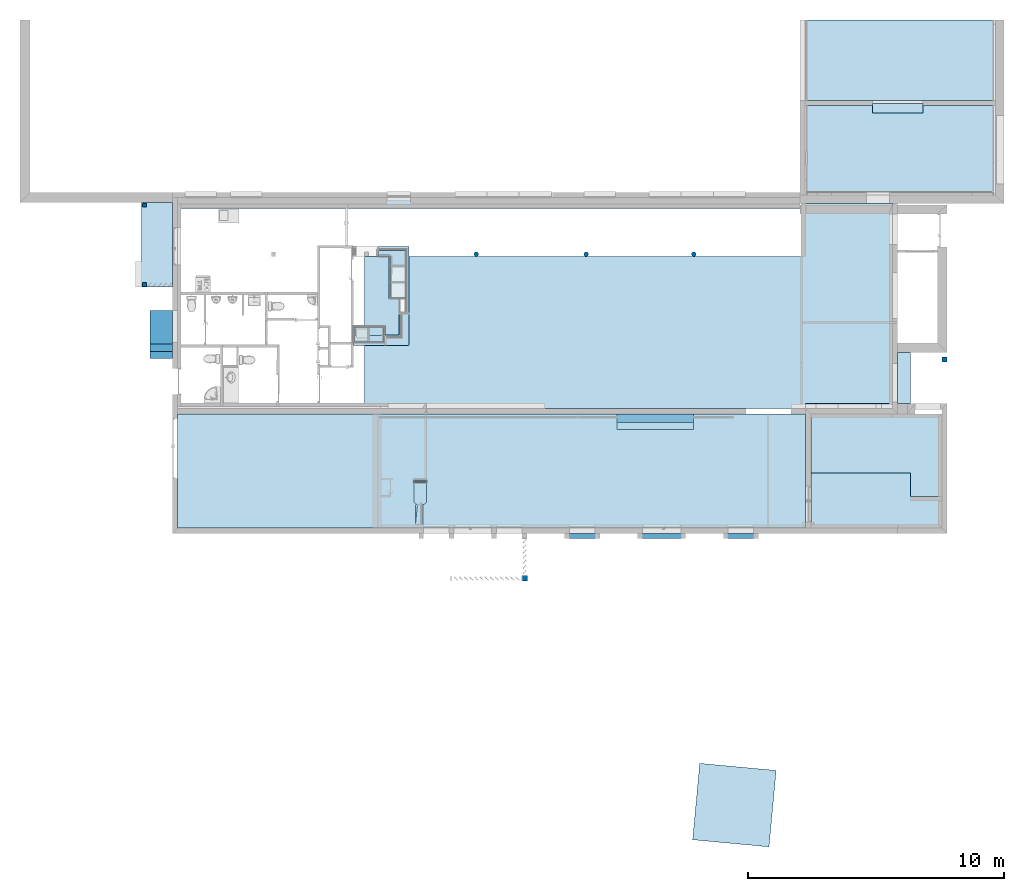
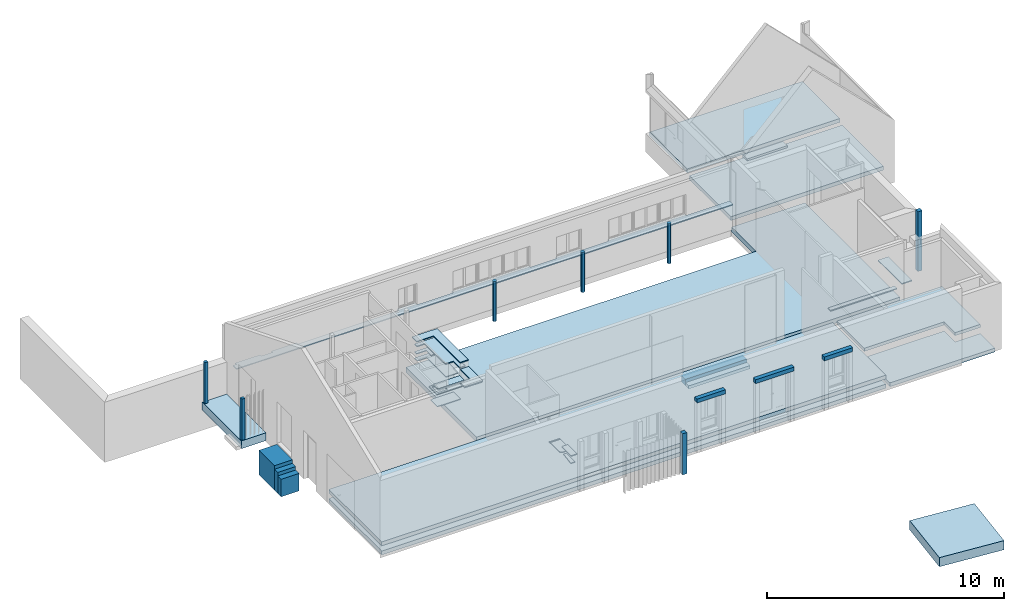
# One storey, part 1 of 34: 33 slabs, 7 columns.
"""IFC2X3 building model written with IfcOpenShell, lengths in metres."""

from ifc_helpers import new_model, entity, si_unit, converted_unit, derived_unit, money_unit, point, direction, frame, frame_2d, origin_with_axes, origin_2d_with_axis, place, context, subcontext, project, spatial, polyline, circle_curve, parameter, trimmed, segment, composite_curve, rectangle, circle, outline, extrude, material, layer, layer_set, layer_usage, type_object, element, save


model = new_model("IFC2X3")

# Units and contexts
model_context = context("Model", 3, precision=1e-05, world=origin_with_axes(), true_north=direction((0.0, 1.0)))
body_context = subcontext(model_context, "Body", "Model", "MODEL_VIEW")
ifc_project = project(units=[si_unit("LENGTHUNIT", "METRE"), si_unit("AREAUNIT", "SQUARE_METRE"), si_unit("VOLUMEUNIT", "CUBIC_METRE"), converted_unit("PLANEANGLEUNIT", "DEGREE", entity("IfcPlaneAngleMeasure", 0.0174532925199), si_unit("PLANEANGLEUNIT", "RADIAN"), dimensions=[0, 0, 0, 0, 0, 0, 0]), money_unit("CHF"), converted_unit("TIMEUNIT", "Year", entity("IfcTimeMeasure", 31556926.0), si_unit("TIMEUNIT", "SECOND"), dimensions=[0, 0, 1, 0, 0, 0, 0]), si_unit("MASSUNIT", "GRAM", prefix="KILO"), si_unit("THERMODYNAMICTEMPERATUREUNIT", "DEGREE_CELSIUS"), si_unit("LUMINOUSINTENSITYUNIT", "LUMEN"), si_unit("ENERGYUNIT", "JOULE", prefix="MEGA"), derived_unit("THERMALCONDUCTANCEUNIT", [(si_unit("POWERUNIT", "WATT"), 1), (si_unit("LENGTHUNIT", "METRE"), -1), (si_unit("THERMODYNAMICTEMPERATUREUNIT", "KELVIN"), -1)]), derived_unit("SPECIFICHEATCAPACITYUNIT", [(si_unit("ENERGYUNIT", "JOULE"), 1), (si_unit("MASSUNIT", "GRAM", prefix="KILO"), -1), (si_unit("THERMODYNAMICTEMPERATUREUNIT", "KELVIN"), -1)]), derived_unit("MASSDENSITYUNIT", [(si_unit("MASSUNIT", "GRAM", prefix="KILO"), 1), (si_unit("VOLUMEUNIT", "CUBIC_METRE"), -1)])], contexts=[model_context])

# Site, building, storey
site_placement = place(None, origin_with_axes())
site = spatial("IfcSite", under=ifc_project, at=site_placement, Name="Site", CompositionType="ELEMENT")
building_placement = place(site_placement, origin_with_axes())
building = spatial("IfcBuilding", under=site, at=building_placement, Name="Bâtiment", CompositionType="ELEMENT")
storey_placement = place(building_placement, origin_with_axes())
storey = spatial("IfcBuildingStorey", under=building, at=storey_placement, Name="RDC", CompositionType="ELEMENT", Elevation=-5.32907e-15)

# Columns
ifc_material_1 = material(Name="Diagonales 1167258944")
column_type_1 = type_object("IfcColumnType", Name="Diagonales 1167258944 D180", PredefinedType="NOTDEFINED")
for number, where, z_axis, x_axis, name in (
    (1, (1683.58729001, 188.29004191, 1.3), (0.0, 0.0, 1.0), (1.0, 0.0, 0.0), "Pot-002"),
    (2, (1679.29729001, 188.29004191, 1.3), (0.0, 0.0, 1.0), (1.0, 0.0, 0.0), "Pot-002"),
    (3, (1687.79729001, 188.29004191, 1.3), (0.0, 0.0, 1.0), (1.0, 0.0, 0.0), "Pot-002"),
):
    element("IfcColumn", number, at=place(storey_placement, frame(where, z_axis=z_axis, x_axis=x_axis)), inside=storey, type_object=column_type_1, material=ifc_material_1, Name=name, context=body_context, shape_type="SweptSolid", body=[
        extrude(circle(Radius=0.09, at=origin_2d_with_axis()), origin_with_axes(), (0.0, 0.0, 1.0), 2.06),
    ])
column_type_2 = type_object("IfcColumnType", Name="Diagonales 1167258944 200 x 200", PredefinedType="NOTDEFINED")
column_1_placement = place(storey_placement, frame((1697.58729001, 184.17004191, 0.0), z_axis=(0.0, 0.0, 1.0), x_axis=(1.0, 0.0, 0.0)))
element("IfcColumn", 4, at=column_1_placement, inside=storey, type_object=column_type_2, material=ifc_material_1, Name="Pot-003", context=body_context, shape_type="SweptSolid", body=[
    extrude(rectangle(XDim=0.2, YDim=0.2, at=origin_2d_with_axis()), origin_with_axes(), (0.0, 0.0, 1.0), 3.078),
])
column_2_placement = place(storey_placement, frame((1681.18729001, 175.625296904, 0.45), z_axis=(0.0, 0.0, 1.0), x_axis=(1.0, 0.0, 0.0)))
element("IfcColumn", 5, at=column_2_placement, inside=storey, type_object=column_type_2, material=ifc_material_1, Name="Pot-002", context=body_context, shape_type="SweptSolid", body=[
    extrude(rectangle(XDim=0.2, YDim=0.2, at=origin_2d_with_axis()), origin_with_axes(), (0.0, 0.0, 1.0), 2.12),
])
column_type_3 = type_object("IfcColumnType", Name="Diagonales 1167258944 150 x 150", PredefinedType="NOTDEFINED")
for number, where, z_axis, x_axis, name in (
    (6, (1666.33040274, 187.100913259, 0.45), (0.0, 0.0, 1.0), (1.0, 0.0, 0.0), "Pot-002"),
    (7, (1666.33040274, 190.20004191, 0.45), (0.0, 0.0, 1.0), (1.0, 0.0, 0.0), "Pot-002"),
):
    element("IfcColumn", number, at=place(storey_placement, frame(where, z_axis=z_axis, x_axis=x_axis)), inside=storey, type_object=column_type_3, material=ifc_material_1, Name=name, context=body_context, shape_type="SweptSolid", body=[
        extrude(rectangle(XDim=0.15, YDim=0.15, at=origin_2d_with_axis()), frame((0.0, 0.0, 0.0), z_axis=(0.0, 0.0, -1.0), x_axis=(-1.0, 0.0, 0.0)), (0.0, 0.0, -1.0), 2.12),
    ])

# Slabs
ifc_material_2 = material(Name="Sans Trame 1167258944")
ifc_layer_1 = layer(ifc_material_2, 0.160473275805, ventilated="UNKNOWN")
ifc_layer_set_1 = layer_set([ifc_layer_1], Name="Sans Trame 1167258944 0.160473")
ifc_layer_usage_1 = layer_usage(ifc_layer_set_1, "AXIS3", "NEGATIVE", 0.160473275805)
slab_type_1 = type_object("IfcSlabType", Name="Sans Trame 1167258944 160", PredefinedType="FLOOR")
slab_1_placement = place(storey_placement, frame((1684.78729001, 181.43004191, 0.160473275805), z_axis=(0.0, 0.0, 1.0), x_axis=(1.0, 0.0, 0.0)))
element("IfcSlab", 8, at=slab_1_placement, inside=storey, type_object=slab_type_1, material=ifc_layer_usage_1, Name="Dalle-17", PredefinedType="FLOOR", context=body_context, shape_type="SweptSolid", body=[
    extrude(outline(polyline([(0.0, 0.0), (3.0, 0.0), (3.0, 0.28), (0.0, 0.28), (0.0, 0.0)])), frame((0.0, 0.0, -0.160473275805), z_axis=(0.0, 0.0, 1.0), x_axis=(1.0, 0.0, 0.0)), (0.0, 0.0, 1.0), 0.160473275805),
])
ifc_layer_2 = layer(ifc_material_2, 0.16, ventilated="UNKNOWN")
ifc_layer_set_2 = layer_set([ifc_layer_2], Name="Sans Trame 1167258944 0.16")
ifc_layer_usage_2 = layer_usage(ifc_layer_set_2, "AXIS3", "NEGATIVE", 0.16)
slab_2_placement = place(storey_placement, frame((1692.36729001, 182.050041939, 0.47), z_axis=(0.0, 0.0, 1.0), x_axis=(1.0, 0.0, 0.0)))
element("IfcSlab", 9, at=slab_2_placement, inside=storey, type_object=slab_type_1, material=ifc_layer_usage_2, Name="Dalle-14", PredefinedType="FLOOR", context=body_context, shape_type="SweptSolid", body=[
    extrude(outline(polyline([(0.0, 0.0), (0.0, -2.30999999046), (3.88999997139, -2.30999999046), (3.88999997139, -3.23000002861), (5.12, -3.23000002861), (5.12, 0.0), (0.0, 0.0)])), frame((0.0, 0.0, -0.16), z_axis=(0.0, 0.0, 1.0), x_axis=(1.0, 0.0, 0.0)), (0.0, 0.0, 1.0), 0.16),
])
ifc_layer_3 = layer(ifc_material_2, 0.03, ventilated="UNKNOWN")
ifc_layer_set_3 = layer_set([ifc_layer_3], Name="Sans Trame 1167258944 0.03")
ifc_layer_usage_3 = layer_usage(ifc_layer_set_3, "AXIS3", "NEGATIVE", 0.03)
slab_type_2 = type_object("IfcSlabType", Name="Sans Trame 1167258944 30", PredefinedType="FLOOR")
slab_3_placement = place(storey_placement, frame((1676.85650683, 179.43904191, 1.27), z_axis=(0.0, 0.0, 1.0), x_axis=(1.0, 0.0, 0.0)))
element("IfcSlab", 10, at=slab_3_placement, inside=storey, type_object=slab_type_2, material=ifc_layer_usage_3, Name="Dalle-14", PredefinedType="FLOOR", context=body_context, shape_type="SweptSolid", body=[
    extrude(outline(polyline([(0.0, 0.0), (0.0, -0.07), (0.500000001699, -0.07), (0.500000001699, 0.0), (0.0, 0.0)])), frame((0.0, 0.0, -0.03), z_axis=(0.0, 0.0, 1.0), x_axis=(1.0, 0.0, 0.0)), (0.0, 0.0, 1.0), 0.03),
])
ifc_layer_usage_4 = layer_usage(ifc_layer_set_3, "AXIS3", "NEGATIVE", 0.03)
slab_4_placement = place(storey_placement, frame((1676.8565379, 178.650056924, 1.27), z_axis=(0.0, 0.0, 1.0), x_axis=(1.0, 0.0, 0.0)))
element("IfcSlab", 11, at=slab_4_placement, inside=storey, type_object=slab_type_2, material=ifc_layer_usage_4, Name="Dalle-13", PredefinedType="FLOOR", context=body_context, shape_type="SweptSolid", body=[
    extrude(outline(composite_curve([segment(trimmed(circle_curve(frame_2d((0.139015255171, 0.0), x_axis=(-1.0, 0.0)), 0.139015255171), [point((0.0, 0.0)), parameter(0.0)], [point((0.139015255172, -0.139015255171)), parameter(90.0)], True, "CARTESIAN"), True, "CONTINUOUS"), segment(polyline([(0.139015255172, -0.139015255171), (0.361001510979, -0.139015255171)]), True, "CONTINUOUS"), segment(trimmed(circle_curve(frame_2d((0.361001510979, 0.0), x_axis=(0.0, -1.0)), 0.139015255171), [point((0.361001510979, -0.139015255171)), parameter(0.0)], [point((0.5, -0.00215898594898)), parameter(89.110128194)], True, "CARTESIAN"), True, "CONTINUOUS"), segment(polyline([(0.5, -0.00215898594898), (0.5, 0.718984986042), (0.0, 0.718984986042), (0.0, 0.0)]), True, "CONTINUOUS")], self_intersect=False)), frame((0.0, 0.0, -0.03), z_axis=(0.0, 0.0, 1.0), x_axis=(1.0, 0.0, 0.0)), (0.0, 0.0, 1.0), 0.03),
])
ifc_layer_usage_5 = layer_usage(ifc_layer_set_3, "AXIS3", "NEGATIVE", 0.03)
slab_5_placement = place(storey_placement, frame((1676.96959801, 178.511041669, 1.57), z_axis=(0.0, 0.0, 1.0), x_axis=(1.0, 0.0, 0.0)))
element("IfcSlab", 12, at=slab_5_placement, inside=storey, type_object=slab_type_2, material=ifc_layer_usage_5, Name="Dalle-22", PredefinedType="FLOOR", context=body_context, shape_type="SweptSolid", body=[
    extrude(outline(composite_curve([segment(trimmed(circle_curve(frame_2d((0.0, -0.0510434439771), x_axis=(0.0, 1.0)), 0.0510434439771), [point((0.0, 0.0)), parameter(0.0)], [point((-0.0510434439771, -0.0510434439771)), parameter(90.0)], True, "CARTESIAN"), True, "CONTINUOUS"), segment(polyline([(-0.0510434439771, -0.0510434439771), (-0.0510434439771, -0.790999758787), (0.248956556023, -0.790999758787), (0.248956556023, -0.051)]), True, "CONTINUOUS"), segment(trimmed(circle_curve(frame_2d((0.197913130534, -0.051043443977), x_axis=(0.999999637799, 0.000851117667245)), 0.051043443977), [point((0.248956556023, -0.051)), parameter(0.0)], [point((0.197913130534, 0.0)), parameter(89.9512345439)], True, "CARTESIAN"), True, "CONTINUOUS"), segment(polyline([(0.197913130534, 0.0), (0.0, 0.0)]), True, "CONTINUOUS")], self_intersect=False)), frame((0.0, 0.0, -0.03), z_axis=(0.0, 0.0, 1.0), x_axis=(1.0, 0.0, 0.0)), (0.0, 0.0, 1.0), 0.03),
])
ifc_layer_usage_6 = layer_usage(ifc_layer_set_3, "AXIS3", "NEGATIVE", 0.03)
slab_6_placement = place(storey_placement, frame((1676.54078561, 188.430120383, 0.944996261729), z_axis=(0.0, 0.0, 1.0), x_axis=(1.0, 0.0, 0.0)))
element("IfcSlab", 13, at=slab_6_placement, inside=storey, type_object=slab_type_2, material=ifc_layer_usage_6, Name="Dalle-13", PredefinedType="FLOOR", context=body_context, shape_type="SweptSolid", body=[
    extrude(outline(polyline([(0.0, 0.0), (-1.06494809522, -0.0019044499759), (-1.0646295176, -0.180053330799), (-0.599641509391, -0.179221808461), (-0.598889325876, -0.599843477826), (0.00107078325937, -0.598770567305), (0.0, 0.0)])), frame((0.0, 0.0, -0.03), z_axis=(0.0, 0.0, 1.0), x_axis=(1.0, 0.0, 0.0)), (0.0, 0.0, 1.0), 0.03),
])
ifc_layer_4 = layer(ifc_material_2, 0.2, ventilated="UNKNOWN")
ifc_layer_set_4 = layer_set([ifc_layer_4], Name="Sans Trame 1167258944 0.2")
ifc_layer_usage_7 = layer_usage(ifc_layer_set_4, "AXIS3", "NEGATIVE", 0.2)
slab_type_3 = type_object("IfcSlabType", Name="Sans Trame 1167258944 200", PredefinedType="FLOOR")
slab_7_placement = place(storey_placement, frame((1682.74729001, 177.18004191, 2.77), z_axis=(0.0, 0.0, 1.0), x_axis=(1.0, 0.0, 0.0)))
element("IfcSlab", 14, at=slab_7_placement, inside=storey, type_object=slab_type_3, material=ifc_layer_usage_7, Name="Dalle-23", PredefinedType="FLOOR", context=body_context, shape_type="SweptSolid", body=[
    extrude(outline(polyline([(0.0, 0.0), (1.38, 0.0), (1.38, 0.2), (0.0, 0.2), (0.0, 0.0)])), frame((0.0, 0.0, -0.2), z_axis=(0.0, 0.0, 1.0), x_axis=(1.0, 0.0, 0.0)), (0.0, 0.0, 1.0), 0.2),
])
ifc_layer_usage_8 = layer_usage(ifc_layer_set_4, "AXIS3", "NEGATIVE", 0.2)
slab_8_placement = place(storey_placement, frame((1692.13729001, 190.60004191, 0.74), z_axis=(0.0, 0.0, 1.0), x_axis=(1.0, 0.0, 0.0)))
element("IfcSlab", 15, at=slab_8_placement, inside=storey, type_object=slab_type_3, material=ifc_layer_usage_8, Name="Dalle-16", PredefinedType="FLOOR", context=body_context, shape_type="SweptSolid", body=[
    extrude(outline(polyline([(0.0, 0.0), (7.44, 0.0), (7.44, 3.49), (0.0, 3.49), (0.0, 0.0)])), frame((0.0, 0.0, -0.2), z_axis=(0.0, 0.0, 1.0), x_axis=(1.0, 0.0, 0.0)), (0.0, 0.0, 1.0), 0.2),
])
ifc_layer_usage_9 = layer_usage(ifc_layer_set_4, "AXIS3", "NEGATIVE", 0.2)
slab_9_placement = place(storey_placement, frame((1692.36729001, 179.740041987, 0.0), z_axis=(0.0, 0.0, 1.0), x_axis=(1.0, 0.0, 0.0)))
element("IfcSlab", 16, at=slab_9_placement, inside=storey, type_object=slab_type_3, material=ifc_layer_usage_9, Name="Dalle-13", PredefinedType="FLOOR", context=body_context, shape_type="SweptSolid", body=[
    extrude(outline(polyline([(0.0, 0.0), (0.0, -2.16000007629), (5.12, -2.16000007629), (5.12, -0.920000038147), (3.88999997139, -0.920000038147), (3.88999997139, 0.0), (0.0, 0.0)])), frame((0.0, 0.0, -0.2), z_axis=(0.0, 0.0, 1.0), x_axis=(1.0, 0.0, 0.0)), (0.0, 0.0, 1.0), 0.2),
])
ifc_layer_usage_10 = layer_usage(ifc_layer_set_4, "AXIS3", "NEGATIVE", 0.2)
slab_10_placement = place(storey_placement, frame((1692.13729001, 194.29004191, 0.96), z_axis=(0.0, 0.0, 1.0), x_axis=(1.0, 0.0, 0.0)))
element("IfcSlab", 17, at=slab_10_placement, inside=storey, type_object=slab_type_3, material=ifc_layer_usage_10, Name="Dalle-16", PredefinedType="FLOOR", context=body_context, shape_type="SweptSolid", body=[
    extrude(outline(polyline([(0.0, 0.0), (7.44, 0.0), (7.44, 3.15), (0.0, 3.15), (0.0, 0.0)])), frame((0.0, 0.0, -0.2), z_axis=(0.0, 0.0, 1.0), x_axis=(1.0, 0.0, 0.0)), (0.0, 0.0, 1.0), 0.2),
])
ifc_layer_usage_11 = layer_usage(ifc_layer_set_4, "AXIS3", "NEGATIVE", 0.2)
slab_11_placement = place(storey_placement, frame((1688.94729001, 177.18004191, 2.77), z_axis=(0.0, 0.0, 1.0), x_axis=(1.0, 0.0, 0.0)))
element("IfcSlab", 18, at=slab_11_placement, inside=storey, type_object=slab_type_3, material=ifc_layer_usage_11, Name="Dalle-23", PredefinedType="FLOOR", context=body_context, shape_type="SweptSolid", body=[
    extrude(outline(polyline([(0.0, 0.0), (1.38, 0.0), (1.38, 0.2), (0.0, 0.2), (0.0, 0.0)])), frame((0.0, 0.0, -0.2), z_axis=(0.0, 0.0, 1.0), x_axis=(1.0, 0.0, 0.0)), (0.0, 0.0, 1.0), 0.2),
])
ifc_layer_usage_12 = layer_usage(ifc_layer_set_4, "AXIS3", "NEGATIVE", 0.2)
slab_12_placement = place(storey_placement, frame((1685.59729001, 177.18004191, 2.77), z_axis=(0.0, 0.0, 1.0), x_axis=(1.0, 0.0, 0.0)))
element("IfcSlab", 19, at=slab_12_placement, inside=storey, type_object=slab_type_3, material=ifc_layer_usage_12, Name="Dalle-23", PredefinedType="FLOOR", context=body_context, shape_type="SweptSolid", body=[
    extrude(outline(polyline([(0.0, 0.0), (1.88, 0.0), (1.88, 0.2), (0.0, 0.2), (0.0, 0.0)])), frame((0.0, 0.0, -0.2), z_axis=(0.0, 0.0, 1.0), x_axis=(1.0, 0.0, 0.0)), (0.0, 0.0, 1.0), 0.2),
])
ifc_layer_5 = layer(ifc_material_2, 1.26, ventilated="UNKNOWN")
ifc_layer_set_5 = layer_set([ifc_layer_5], Name="Sans Trame 1167258944 1.26")
ifc_layer_usage_13 = layer_usage(ifc_layer_set_5, "AXIS3", "NEGATIVE", 1.26)
slab_type_4 = type_object("IfcSlabType", Name="Sans Trame 1167258944 1260", PredefinedType="FLOOR")
slab_13_placement = place(storey_placement, frame((1666.54729001, 184.771302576, 0.412953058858), z_axis=(0.0, 0.0, 1.0), x_axis=(1.0, 0.0, 0.0)))
element("IfcSlab", 20, at=slab_13_placement, inside=storey, type_object=slab_type_4, material=ifc_layer_usage_13, Name="Dalle-15", PredefinedType="FLOOR", context=body_context, shape_type="SweptSolid", body=[
    extrude(outline(polyline([(0.0, 0.0), (0.87, 0.0), (0.87, 1.31), (0.0, 1.31), (0.0, 0.0)])), frame((0.0, 0.0, -1.26), z_axis=(0.0, 0.0, 1.0), x_axis=(1.0, 0.0, 0.0)), (0.0, 0.0, 1.0), 1.26),
])
ifc_layer_6 = layer(ifc_material_2, 0.028, ventilated="UNKNOWN")
ifc_layer_set_6 = layer_set([ifc_layer_6], Name="Sans Trame 1167258944 0.028")
ifc_layer_usage_14 = layer_usage(ifc_layer_set_6, "AXIS3", "NEGATIVE", 0.028)
slab_type_5 = type_object("IfcSlabType", Name="Sans Trame 1167258944 28", PredefinedType="FLOOR")
slab_14_placement = place(storey_placement, frame((1676.99563092, 178.481041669, 1.16999391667), z_axis=(0.0, 0.0, 1.0), x_axis=(1.0, 0.0, 0.0)))
element("IfcSlab", 21, at=slab_14_placement, inside=storey, type_object=slab_type_5, material=ifc_layer_usage_14, Name="Dalle-22", PredefinedType="FLOOR", context=body_context, shape_type="SweptSolid", body=[
    extrude(outline(polyline([(0.0, 0.0), (-0.0741580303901, -0.730999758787), (0.141755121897, -0.730999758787), (0.141755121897, 0.0), (0.0, 0.0)])), frame((0.0, 0.0, -0.028), z_axis=(0.0, 0.0, 1.0), x_axis=(1.0, 0.0, 0.0)), (0.0, 0.0, 1.0), 0.028),
])
ifc_material_3 = material(Name="50 % 1167783752")
ifc_layer_7 = layer(ifc_material_3, 0.05, ventilated="UNKNOWN")
ifc_layer_set_7 = layer_set([ifc_layer_7], Name="50 % 1167783752 0.05")
ifc_layer_usage_15 = layer_usage(ifc_layer_set_7, "AXIS3", "NEGATIVE", 0.05)
slab_type_6 = type_object("IfcSlabType", Name="50 % 1167783752 50", PredefinedType="FLOOR")
slab_15_placement = place(storey_placement, frame((1676.53850979, 188.46060178, 1.32), z_axis=(0.0, 0.0, 1.0), x_axis=(1.0, 0.0, 0.0)))
element("IfcSlab", 22, at=slab_15_placement, inside=storey, type_object=slab_type_6, material=ifc_layer_usage_15, Name="Dalle-13", PredefinedType="FLOOR", context=body_context, shape_type="SweptSolid", body=[
    extrude(outline(polyline([(0.0, 0.0), (-1.04790356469, -0.00187397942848), (-1.04753047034, -0.210508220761), (-0.653248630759, -0.209803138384), (-0.650189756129, -1.9203248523), (-0.266173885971, -1.9203248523), (-0.266173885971, -2.4630201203), (0.00423220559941, -2.4630201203), (0.0, 0.0)])), frame((0.0, 0.0, -0.05), z_axis=(0.0, 0.0, 1.0), x_axis=(1.0, 0.0, 0.0)), (0.0, 0.0, 1.0), 0.05),
])
ifc_layer_usage_16 = layer_usage(ifc_layer_set_7, "AXIS3", "NEGATIVE", 0.05)
slab_16_placement = place(storey_placement, frame((1675.77073466, 185.120514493, 1.27), z_axis=(0.0, 0.0, 1.0), x_axis=(1.0, 0.0, 0.0)))
element("IfcSlab", 23, at=slab_16_placement, inside=storey, type_object=slab_type_6, material=ifc_layer_usage_16, Name="Dalle-13", PredefinedType="FLOOR", context=body_context, shape_type="SweptSolid", body=[
    extrude(outline(composite_curve([segment(polyline([(0.0, 0.0), (-0.00019986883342, -0.399417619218), (0.84104113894, -0.404978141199)]), True, "CONTINUOUS"), segment(trimmed(circle_curve(frame_2d((0.83794810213, -0.345453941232), x_axis=(0.0518926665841, -0.998652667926)), 0.0596045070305), [point((0.84104113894, -0.404978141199)), parameter(0.0)], [point((0.897434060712, -0.341696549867)), parameter(90.639681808)], True, "CARTESIAN"), True, "CONTINUOUS"), segment(polyline([(0.897434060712, -0.341696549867), (0.902084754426, 0.827500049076), (0.501701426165, 0.826784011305), (0.50317831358, 0.000899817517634), (0.0, 0.0)]), True, "CONTINUOUS")], self_intersect=False)), frame((0.0, 0.0, -0.05), z_axis=(0.0, 0.0, 1.0), x_axis=(1.0, 0.0, 0.0)), (0.0, 0.0, 1.0), 0.05),
])
ifc_layer_usage_17 = layer_usage(ifc_layer_set_7, "AXIS3", "NEGATIVE", 0.05)
slab_17_placement = place(storey_placement, frame((1695.75729001, 184.45004191, 0.97), z_axis=(0.0, 0.0, 1.0), x_axis=(1.0, 0.0, 0.0)))
element("IfcSlab", 24, at=slab_17_placement, inside=storey, type_object=slab_type_6, material=ifc_layer_usage_17, Name="Dalle-17", PredefinedType="FLOOR", context=body_context, shape_type="SweptSolid", body=[
    extrude(outline(polyline([(0.0, 0.0), (0.0, -2.0), (0.5, -2.00023191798), (0.5, 0.0), (0.0, 0.0)])), frame((0.0, 0.0, -0.05), z_axis=(0.0, 0.0, 1.0), x_axis=(1.0, 0.0, 0.0)), (0.0, 0.0, 1.0), 0.05),
])
ifc_layer_usage_18 = layer_usage(ifc_layer_set_7, "AXIS3", "NEGATIVE", 0.05)
slab_18_placement = place(storey_placement, frame((1675.77073755, 185.120393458, 1.62), z_axis=(0.0, 0.0, 1.0), x_axis=(1.0, 0.0, 0.0)))
element("IfcSlab", 25, at=slab_18_placement, inside=storey, type_object=slab_type_6, material=ifc_layer_usage_18, Name="Dalle-16", PredefinedType="FLOOR", context=body_context, shape_type="SweptSolid", body=[
    extrude(outline(polyline([(0.0, 0.0), (-1.28013751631, -0.000465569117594), (-1.28004322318, -0.400226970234), (9.42212432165e-05, -0.399484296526), (0.0, 0.0)])), frame((0.0, 0.0, -0.05), z_axis=(0.0, 0.0, 1.0), x_axis=(1.0, 0.0, 0.0)), (0.0, 0.0, 1.0), 0.05),
])
ifc_layer_usage_19 = layer_usage(ifc_layer_set_7, "AXIS3", "NEGATIVE", 0.05)
slab_19_placement = place(storey_placement, frame((1674.49069433, 184.850376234, 1.27), z_axis=(0.0, 0.0, 1.0), x_axis=(1.0, 0.0, 0.0)))
element("IfcSlab", 26, at=slab_19_placement, inside=storey, type_object=slab_type_6, material=ifc_layer_usage_19, Name="Dalle-13", PredefinedType="FLOOR", context=body_context, shape_type="SweptSolid", body=[
    extrude(outline(polyline([(0.0, 0.0), (1.23004319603, 0.0), (1.23004319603, 0.649633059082), (4.32016637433e-05, 0.649633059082), (0.0, 0.0)]), holes=[polyline([(0.0802014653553, 0.0696330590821), (0.0802014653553, 0.569633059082), (0.579956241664, 0.569633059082), (0.579956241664, 0.0696330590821), (0.0802014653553, 0.0696330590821)])]), frame((0.0, 0.0, -0.05), z_axis=(0.0, 0.0, 1.0), x_axis=(1.0, 0.0, 0.0)), (0.0, 0.0, 1.0), 0.05),
])
ifc_layer_usage_20 = layer_usage(ifc_layer_set_7, "AXIS3", "NEGATIVE", 0.05)
slab_20_placement = place(storey_placement, frame((1676.27242583, 185.947298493, 1.62), z_axis=(0.0, 0.0, 1.0), x_axis=(1.0, 0.0, 0.0)))
element("IfcSlab", 27, at=slab_20_placement, inside=storey, type_object=slab_type_6, material=ifc_layer_usage_20, Name="Dalle-16", PredefinedType="FLOOR", context=body_context, shape_type="SweptSolid", body=[
    extrude(outline(polyline([(0.0, 0.0), (0.400636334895, 9.4337502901e-05), (0.399390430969, 2.64333468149), (-0.831496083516, 2.64280562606), (-0.831401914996, 2.24280563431), (-0.000528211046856, 2.24324047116), (0.0, 0.0)])), frame((0.0, 0.0, -0.05), z_axis=(0.0, 0.0, 1.0), x_axis=(1.0, 0.0, 0.0)), (0.0, 0.0, 1.0), 0.05),
])
ifc_layer_8 = layer(ifc_material_2, 0.9, ventilated="UNKNOWN")
ifc_layer_set_8 = layer_set([ifc_layer_8], Name="Sans Trame 1167258944 0.9")
ifc_layer_usage_21 = layer_usage(ifc_layer_set_8, "AXIS3", "NEGATIVE", 0.9)
slab_type_7 = type_object("IfcSlabType", Name="Sans Trame 1167258944 900", PredefinedType="FLOOR")
slab_21_placement = place(storey_placement, frame((1666.54729001, 184.211302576, 0.0529530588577), z_axis=(0.0, 0.0, 1.0), x_axis=(1.0, 0.0, 0.0)))
element("IfcSlab", 28, at=slab_21_placement, inside=storey, type_object=slab_type_7, material=ifc_layer_usage_21, Name="Dalle-17", PredefinedType="FLOOR", context=body_context, shape_type="SweptSolid", body=[
    extrude(outline(polyline([(0.0, 0.0), (0.87, 0.0), (0.87, 0.28), (0.0, 0.28), (0.0, 0.0)])), frame((0.0, 0.0, -0.9), z_axis=(0.0, 0.0, 1.0), x_axis=(1.0, 0.0, 0.0)), (0.0, 0.0, 1.0), 0.9),
])
ifc_layer_9 = layer(ifc_material_2, 0.25, ventilated="UNKNOWN")
ifc_layer_set_9 = layer_set([ifc_layer_9], Name="Sans Trame 1167258944 0.25")
ifc_layer_usage_22 = layer_usage(ifc_layer_set_9, "AXIS3", "NEGATIVE", 0.25)
slab_type_8 = type_object("IfcSlabType", Name="Sans Trame 1167258944 250", PredefinedType="FLOOR")
slab_22_placement = place(storey_placement, frame((1674.93069897, 182.25004191, 0.47), z_axis=(0.0, 0.0, 1.0), x_axis=(1.0, 0.0, 0.0)))
element("IfcSlab", 29, at=slab_22_placement, inside=storey, type_object=slab_type_8, material=ifc_layer_usage_22, Name="Dalle-15", PredefinedType="FLOOR", context=body_context, shape_type="SweptSolid", body=[
    extrude(outline(polyline([(0.0, 0.0), (20.626591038, 0.0), (20.626591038, 8.01), (17.0465911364, 8.01), (17.0465911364, 5.94999990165), (8.59715243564e-05, 5.95024619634), (0.0, 0.0)])), frame((0.0, 0.0, -0.25), z_axis=(0.0, 0.0, 1.0), x_axis=(1.0, 0.0, 0.0)), (0.0, 0.0, 1.0), 0.25),
])
ifc_layer_10 = layer(ifc_material_2, 0.47, ventilated="UNKNOWN")
ifc_layer_set_10 = layer_set([ifc_layer_10], Name="Sans Trame 1167258944 0.47")
ifc_layer_usage_23 = layer_usage(ifc_layer_set_10, "AXIS3", "NEGATIVE", 0.47)
slab_type_9 = type_object("IfcSlabType", Name="Sans Trame 1167258944 470", PredefinedType="FLOOR")
slab_23_placement = place(storey_placement, frame((1687.74844988, 165.404244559, 0.0), z_axis=(0.0, 0.0, 1.0), x_axis=(1.0, 0.0, 0.0)))
element("IfcSlab", 30, at=slab_23_placement, inside=storey, type_object=slab_type_9, material=ifc_layer_usage_23, Name="Dalle-24", PredefinedType="FLOOR", context=body_context, shape_type="SweptSolid", body=[
    extrude(outline(polyline([(0.0, 0.0), (2.98702838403, -0.278678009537), (3.26578504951, 2.70919345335), (0.278756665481, 2.98787146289), (0.0, 0.0)])), frame((0.0, 0.0, -0.47), z_axis=(0.0, 0.0, 1.0), x_axis=(1.0, 0.0, 0.0)), (0.0, 0.0, 1.0), 0.47),
])
ifc_layer_11 = layer(ifc_material_2, 0.18, ventilated="UNKNOWN")
ifc_layer_set_11 = layer_set([ifc_layer_11], Name="Sans Trame 1167258944 0.18")
ifc_layer_usage_24 = layer_usage(ifc_layer_set_11, "AXIS3", "NEGATIVE", 0.18)
slab_type_10 = type_object("IfcSlabType", Name="Sans Trame 1167258944 180", PredefinedType="FLOOR")
slab_24_placement = place(storey_placement, frame((1694.78729001, 193.81004191, 0.84), z_axis=(0.0, 0.0, 1.0), x_axis=(1.0, 0.0, 0.0)))
element("IfcSlab", 31, at=slab_24_placement, inside=storey, type_object=slab_type_10, material=ifc_layer_usage_24, Name="Dalle-17", PredefinedType="FLOOR", context=body_context, shape_type="SweptSolid", body=[
    extrude(outline(polyline([(0.0, 0.0), (1.96, 0.0), (1.96, 0.375324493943), (0.0, 0.375324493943), (0.0, 0.0)])), frame((0.0, 0.0, -0.18), z_axis=(0.0, 0.0, 1.0), x_axis=(1.0, 0.0, 0.0)), (0.0, 0.0, 1.0), 0.18),
])
ifc_layer_12 = layer(ifc_material_2, 0.330946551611, ventilated="UNKNOWN")
ifc_layer_set_12 = layer_set([ifc_layer_12], Name="Sans Trame 1167258944 0.330947")
ifc_layer_usage_25 = layer_usage(ifc_layer_set_12, "AXIS3", "NEGATIVE", 0.330946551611)
slab_type_11 = type_object("IfcSlabType", Name="Sans Trame 1167258944 331", PredefinedType="FLOOR")
slab_25_placement = place(storey_placement, frame((1684.78729001, 181.71004191, 0.330946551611), z_axis=(0.0, 0.0, 1.0), x_axis=(1.0, 0.0, 0.0)))
element("IfcSlab", 32, at=slab_25_placement, inside=storey, type_object=slab_type_11, material=ifc_layer_usage_25, Name="Dalle-17", PredefinedType="FLOOR", context=body_context, shape_type="SweptSolid", body=[
    extrude(outline(polyline([(0.0, 0.0), (3.0, 0.0), (3.0, 0.34), (0.0, 0.34), (0.0, 0.0)])), frame((0.0, 0.0, -0.330946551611), z_axis=(0.0, 0.0, 1.0), x_axis=(1.0, 0.0, 0.0)), (0.0, 0.0, 1.0), 0.330946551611),
])
ifc_layer_13 = layer(ifc_material_2, 1.08, ventilated="UNKNOWN")
ifc_layer_set_13 = layer_set([ifc_layer_13], Name="Sans Trame 1167258944 1.08")
ifc_layer_usage_26 = layer_usage(ifc_layer_set_13, "AXIS3", "NEGATIVE", 1.08)
slab_type_12 = type_object("IfcSlabType", Name="Sans Trame 1167258944 1080", PredefinedType="FLOOR")
slab_26_placement = place(storey_placement, frame((1666.54729001, 184.491302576, 0.232953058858), z_axis=(0.0, 0.0, 1.0), x_axis=(1.0, 0.0, 0.0)))
element("IfcSlab", 33, at=slab_26_placement, inside=storey, type_object=slab_type_12, material=ifc_layer_usage_26, Name="Dalle-16", PredefinedType="FLOOR", context=body_context, shape_type="SweptSolid", body=[
    extrude(outline(polyline([(0.0, 0.0), (0.87, 0.0), (0.87, 0.28), (0.0, 0.28), (0.0, 0.0)])), frame((0.0, 0.0, -1.08), z_axis=(0.0, 0.0, 1.0), x_axis=(1.0, 0.0, 0.0)), (0.0, 0.0, 1.0), 1.08),
])
ifc_layer_14 = layer(ifc_material_1, 0.2, ventilated="UNKNOWN")
ifc_layer_set_14 = layer_set([ifc_layer_14], Name="Diagonales 1167258944 0.2")
ifc_layer_usage_27 = layer_usage(ifc_layer_set_14, "AXIS3", "NEGATIVE", 0.2)
slab_type_13 = type_object("IfcSlabType", Name="Diagonales 1167258944 200", PredefinedType="FLOOR")
slab_27_placement = place(storey_placement, frame((1667.61729001, 177.58004191, 0.0), z_axis=(0.0, 0.0, 1.0), x_axis=(1.0, 0.0, 0.0)))
element("IfcSlab", 34, at=slab_27_placement, inside=storey, type_object=slab_type_13, material=ifc_layer_usage_27, Name="Dalle-13", PredefinedType="FLOOR", context=body_context, shape_type="SweptSolid", body=[
    extrude(outline(polyline([(0.0, 0.0), (24.55, 0.0), (24.55, 4.47), (0.0, 4.47), (0.0, 0.0)])), frame((0.0, 0.0, -0.2), z_axis=(0.0, 0.0, 1.0), x_axis=(1.0, 0.0, 0.0)), (0.0, 0.0, 1.0), 0.2),
])
ifc_layer_usage_28 = layer_usage(ifc_layer_set_14, "AXIS3", "NEGATIVE", 0.2)
slab_28_placement = place(storey_placement, frame((1667.61729001, 177.58004191, 0.47), z_axis=(0.0, 0.0, 1.0), x_axis=(1.0, 0.0, 0.0)))
element("IfcSlab", 35, at=slab_28_placement, inside=storey, type_object=slab_type_13, material=ifc_layer_usage_28, Name="Dalle-13", PredefinedType="FLOOR", context=body_context, shape_type="SweptSolid", body=[
    extrude(outline(polyline([(0.0, 0.0), (24.55, 0.0), (24.55, 4.47), (0.0, 4.47), (0.0, 0.0)])), frame((0.0, 0.0, -0.2), z_axis=(0.0, 0.0, 1.0), x_axis=(1.0, 0.0, 0.0)), (0.0, 0.0, 1.0), 0.2),
])
ifc_layer_15 = layer(ifc_material_2, 0.4, ventilated="UNKNOWN")
ifc_layer_set_15 = layer_set([ifc_layer_15], Name="Sans Trame 1167258944 0.4")
ifc_layer_usage_29 = layer_usage(ifc_layer_set_15, "AXIS3", "NEGATIVE", 0.4)
slab_type_14 = type_object("IfcSlabType", Name="Sans Trame 1167258944 400", PredefinedType="FLOOR")
slab_29_placement = place(storey_placement, frame((1667.41729001, 187.000913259, 0.45), z_axis=(0.0, 0.0, 1.0), x_axis=(1.0, 0.0, 0.0)))
element("IfcSlab", 36, at=slab_29_placement, inside=storey, type_object=slab_type_14, material=ifc_layer_usage_29, Name="Dalle-19", PredefinedType="FLOOR", context=body_context, shape_type="SweptSolid", body=[
    extrude(outline(polyline([(0.0, 0.0), (0.0, 3.29912865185), (-1.2, 3.29912865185), (-1.2, 0.0), (0.0, 0.0)])), frame((0.0, 0.0, -0.4), z_axis=(0.0, 0.0, 1.0), x_axis=(1.0, 0.0, 0.0)), (0.0, 0.0, 1.0), 0.4),
])
ifc_layer_16 = layer(ifc_material_2, 0.05, ventilated="UNKNOWN")
ifc_layer_set_16 = layer_set([ifc_layer_16], Name="Sans Trame 1167258944 0.05")
ifc_layer_usage_30 = layer_usage(ifc_layer_set_16, "AXIS3", "NEGATIVE", 0.05)
slab_type_15 = type_object("IfcSlabType", Name="Sans Trame 1167258944 50", PredefinedType="FLOOR")
slab_30_placement = place(storey_placement, frame((1667.75729001, 190.359918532, 1.76817564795), z_axis=(0.0, 0.0, 1.0), x_axis=(1.0, 0.0, 0.0)))
element("IfcSlab", 37, at=slab_30_placement, inside=storey, type_object=slab_type_15, material=ifc_layer_usage_30, Name="Dalle-14", PredefinedType="FLOOR", context=body_context, shape_type="SweptSolid", body=[
    extrude(outline(polyline([(0.0, 0.0), (0.0, -0.289876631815), (24.18, -0.289876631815), (24.18, 0.000123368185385), (22.06, -0.00151139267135), (22.06, 0.103453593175), (18.29, 0.103453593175), (18.29, -0.00441849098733), (16.98, -0.00542864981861), (16.98, 0.103453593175), (15.75, 0.103453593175), (15.75, -0.00637711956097), (14.4704202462, -0.00736382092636), (14.4704202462, 0.103453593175), (10.6994202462, 0.103453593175), (10.6994202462, -0.010271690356), (8.96302164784, -0.0116106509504), (8.96269470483, 0.140123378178), (8.05269892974, 0.138162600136), (8.05298823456, 0.00389642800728), (3.16, 0.000123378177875), (3.16, 0.103453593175), (1.92688359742, 0.103453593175), (1.92688359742, 0.000281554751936), (1.39, -0.00013244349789), (1.39, 0.103453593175), (0.16, 0.103453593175), (0.16, 0.000123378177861), (0.0, 0.0)])), frame((0.0, 0.0, -0.05), z_axis=(0.0, 0.0, 1.0), x_axis=(1.0, 0.0, 0.0)), (0.0, 0.0, 1.0), 0.05),
])
ifc_layer_usage_31 = layer_usage(ifc_layer_set_16, "AXIS3", "NEGATIVE", 0.05)
slab_31_placement = place(storey_placement, frame((1692.16729001, 182.25004191, 0.97), z_axis=(0.0, 0.0, 1.0), x_axis=(1.0, 0.0, 0.0)))
element("IfcSlab", 38, at=slab_31_placement, inside=storey, type_object=slab_type_15, material=ifc_layer_usage_31, Name="Dalle-14", PredefinedType="FLOOR", context=body_context, shape_type="SweptSolid", body=[
    extrude(outline(polyline([(0.0, 0.0), (3.25, 0.0), (3.25, 0.209140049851), (0.0, 0.209140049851), (0.0, 0.0)])), frame((0.0, 0.0, -0.05), z_axis=(0.0, 0.0, 1.0), x_axis=(1.0, 0.0, 0.0)), (0.0, 0.0, 1.0), 0.05),
])
ifc_layer_17 = layer(ifc_material_3, 0.03, ventilated="UNKNOWN")
ifc_layer_set_17 = layer_set([ifc_layer_17], Name="50 % 1167783752 0.03")
ifc_layer_usage_32 = layer_usage(ifc_layer_set_17, "AXIS3", "NEGATIVE", 0.03)
slab_type_16 = type_object("IfcSlabType", Name="50 % 1167783752 30", PredefinedType="FLOOR")
slab_32_placement = place(storey_placement, frame((1676.54078609, 188.429849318, 0.619992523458), z_axis=(0.0, 0.0, 1.0), x_axis=(1.0, 0.0, 0.0)))
element("IfcSlab", 39, at=slab_32_placement, inside=storey, type_object=slab_type_16, material=ifc_layer_usage_32, Name="Dalle-13", PredefinedType="FLOOR", context=body_context, shape_type="SweptSolid", body=[
    extrude(outline(polyline([(0.0, 0.0), (-1.06494809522, -0.0019044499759), (-1.06452288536, -0.239682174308), (-0.599199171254, -0.239476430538), (-0.597806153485, -1.8596319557), (0.00332366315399, -1.85855695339), (0.0, 0.0)])), frame((0.0, 0.0, -0.03), z_axis=(0.0, 0.0, 1.0), x_axis=(1.0, 0.0, 0.0)), (0.0, 0.0, 1.0), 0.03),
])
ifc_layer_usage_33 = layer_usage(ifc_layer_set_17, "AXIS3", "NEGATIVE", 0.03)
slab_33_placement = place(storey_placement, frame((1674.52100362, 184.850376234, 0.619992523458), z_axis=(0.0, 0.0, 1.0), x_axis=(1.0, 0.0, 0.0)))
element("IfcSlab", 40, at=slab_33_placement, inside=storey, type_object=slab_type_16, material=ifc_layer_usage_33, Name="Dalle-13", PredefinedType="FLOOR", context=body_context, shape_type="SweptSolid", body=[
    extrude(outline(polyline([(0.0, 0.0), (1.13977418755, 0.0), (1.13977418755, 0.589633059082), (3.92115654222e-05, 0.589633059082), (0.0, 0.0)])), frame((0.0, 0.0, -0.03), z_axis=(0.0, 0.0, 1.0), x_axis=(1.0, 0.0, 0.0)), (0.0, 0.0, 1.0), 0.03),
])

save(model, "model.ifc")
